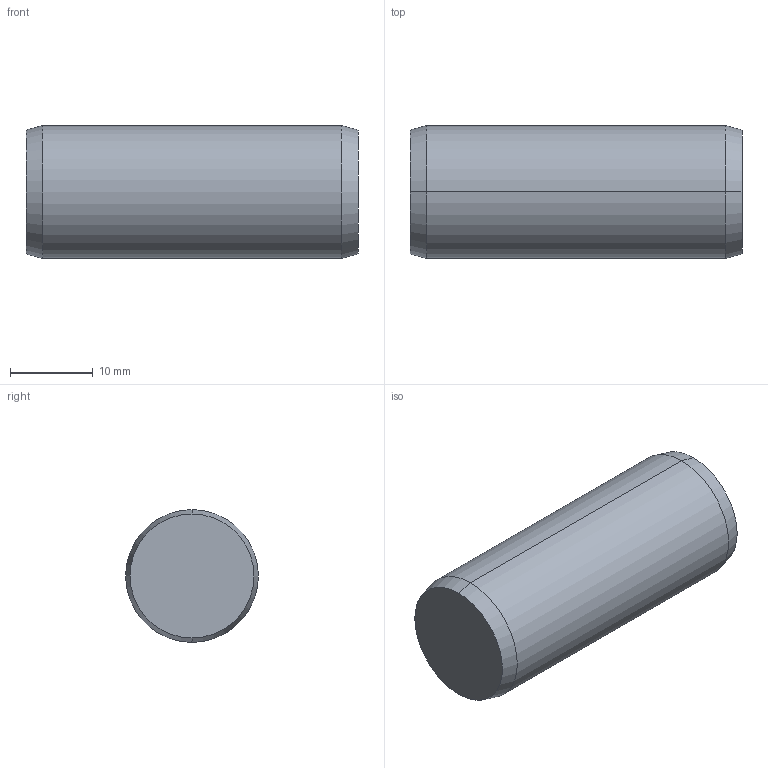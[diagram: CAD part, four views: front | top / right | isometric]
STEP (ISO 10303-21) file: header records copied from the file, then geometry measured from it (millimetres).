
FILE_DESCRIPTION (( 'STEP AP203' ), '1' );
FILE_NAME ('P1206.160-040.step', '2017-06-14T08:42:36', ( 'User' ), ( '' ), 'SwSTEP 2.0', 'SolidWorks 2009', '' );
FILE_SCHEMA (( 'CONFIG_CONTROL_DESIGN' ));
Length unit declared in the file: millimetre
Products named in the file (1): P1206.160-040
Bounding box: 40 x 16 x 16 mm (x, y, z)
Volume: 7989.8 mm3; surface area: 2360.8 mm2
Topology: 1 solids, 1 shells, 8 faces, 14 edges, 8 vertices
Faces by surface type: cone 4, cylinder 2, plane 2
Entity records: 271 total; most frequent: DIRECTION 40, CARTESIAN_POINT 31, ORIENTED_EDGE 28, AXIS2_PLACEMENT_3D 17, EDGE_CURVE 14, FACE_OUTER_BOUND 8, CIRCLE 8, ADVANCED_FACE 8
